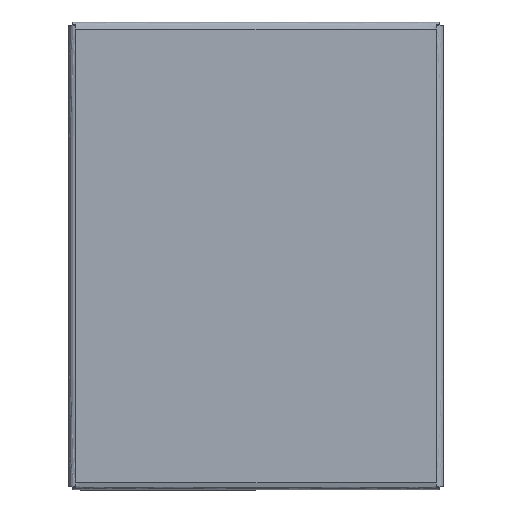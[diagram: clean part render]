
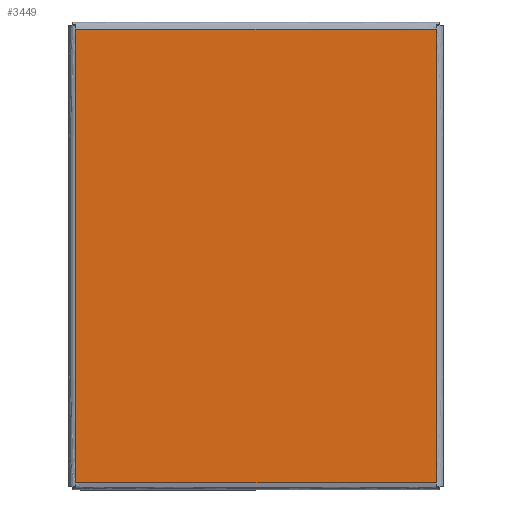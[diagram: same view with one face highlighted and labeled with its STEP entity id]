
A CAD part, front view. The second image highlights one B-rep face of the part: STEP entity #3449.
In plain terms, the highlighted free-form (B-spline) face has degree [1, 1] with [2, 2] control points.
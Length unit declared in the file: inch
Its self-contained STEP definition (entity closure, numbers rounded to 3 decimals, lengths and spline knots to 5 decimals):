
#1640=CARTESIAN_POINT('V123',(7.776,-0.072,
   0.08));
#1641=VERTEX_POINT('V123',#1640);
#2370=CARTESIAN_POINT('V129',(0.08,-0.072,
   9.776));
#2371=VERTEX_POINT('V129',#2370);
#3321=CARTESIAN_POINT('V122',(7.776,-0.072,
   9.776));
#3322=VERTEX_POINT('V122',#3321);
#3323=CARTESIAN_POINT('E158',(0.08,-0.072,
   9.776));
#3324=CARTESIAN_POINT('E158',(7.776,-0.072,
   9.776));
#3325=QUASI_UNIFORM_CURVE('E158',1,(#3323,#3324),.POLYLINE_FORM.,.F.,
   .U.);
#3326=EDGE_CURVE('E158',#2371,#3322,#3325,.T.);
#3404=CARTESIAN_POINT('E144',(7.776,-0.072,
   9.776));
#3405=CARTESIAN_POINT('E144',(7.776,-0.072,
   0.08));
#3406=QUASI_UNIFORM_CURVE('E144',1,(#3404,#3405),.POLYLINE_FORM.,.F.,
   .U.);
#3407=EDGE_CURVE('E144',#3322,#1641,#3406,.T.);
#3428=CARTESIAN_POINT('F47',(7.776,-0.072,
   0.08));
#3429=CARTESIAN_POINT('F47',(7.776,-0.072,
   9.776));
#3430=CARTESIAN_POINT('F47',(0.08,-0.072,
   0.08));
#3431=CARTESIAN_POINT('F47',(0.08,-0.072,
   9.776));
#3432=B_SPLINE_SURFACE_WITH_KNOTS('F47',1,1,((#3428,#3430),(#3429,
   #3431)),.PLANE_SURF.,.F.,.F.,.U.,(2,2),(2,2),(
   0.00015,1.25964),(0.00015,
   0.99985),.UNSPECIFIED.);
#3433=CARTESIAN_POINT('V128',(0.08,-0.072,
   0.08));
#3434=VERTEX_POINT('V128',#3433);
#3435=CARTESIAN_POINT('E166',(7.776,-0.072,
   0.08));
#3436=CARTESIAN_POINT('E166',(0.08,-0.072,
   0.08));
#3437=QUASI_UNIFORM_CURVE('E166',1,(#3435,#3436),.POLYLINE_FORM.,.F.,
   .U.);
#3438=EDGE_CURVE('E166',#1641,#3434,#3437,.T.);
#3439=ORIENTED_EDGE('E166',*,*,#3438,.F.);
#3440=ORIENTED_EDGE('E144',*,*,#3407,.F.);
#3441=ORIENTED_EDGE('E158',*,*,#3326,.F.);
#3442=CARTESIAN_POINT('E150',(0.08,-0.072,
   0.08));
#3443=CARTESIAN_POINT('E150',(0.08,-0.072,
   9.776));
#3444=QUASI_UNIFORM_CURVE('E150',1,(#3442,#3443),.POLYLINE_FORM.,.F.,
   .U.);
#3445=EDGE_CURVE('E150',#3434,#2371,#3444,.T.);
#3446=ORIENTED_EDGE('E150',*,*,#3445,.F.);
#3447=EDGE_LOOP('F47',(#3439,#3440,#3441,#3446));
#3448=FACE_OUTER_BOUND('F47',#3447,.T.);
#3449=ADVANCED_FACE('F47',(#3448),#3432,.T.);
